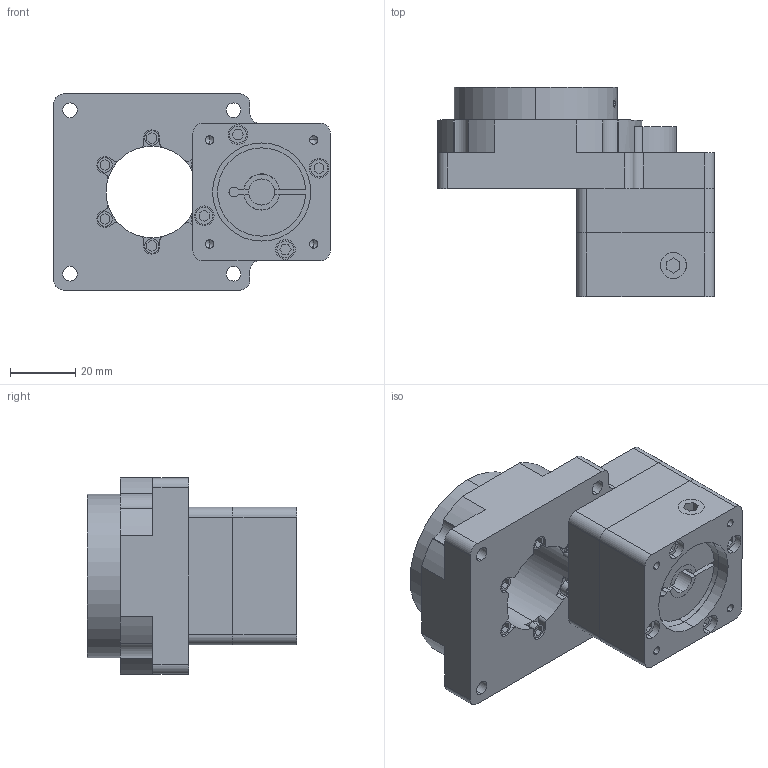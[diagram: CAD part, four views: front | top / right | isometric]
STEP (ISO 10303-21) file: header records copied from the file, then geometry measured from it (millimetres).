
FILE_DESCRIPTION (( 'STEP AP203' ), '1' );
FILE_NAME ('NT60-05-M1耀倰(饜侜督8-30-45-M3).STEP', '2025-04-27T00:49:00', ( 'Windows User' ), ( 'P R C' ), 'SwSTEP 2.0', 'SolidWorks 2016', '' );
FILE_SCHEMA (( 'CONFIG_CONTROL_DESIGN' ));
Length unit declared in the file: millimetre
Products named in the file (1): NT60-05-M1耀倰(饜侜督8-30-45-M3)
Bounding box: 84.6 x 64 x 60 mm (x, y, z)
Volume: 129226.1 mm3; surface area: 38291.9 mm2
Topology: 3 solids, 9 shells, 596 faces, 1522 edges, 988 vertices
Faces by surface type: plane 290, cylinder 181, bspline 89, cone 36
Entity records: 23345 total; most frequent: CARTESIAN_POINT 9234, ORIENTED_EDGE 2972, DIRECTION 2702, EDGE_CURVE 1486, VERTEX_POINT 988, LINE 914, VECTOR 914, AXIS2_PLACEMENT_3D 894
